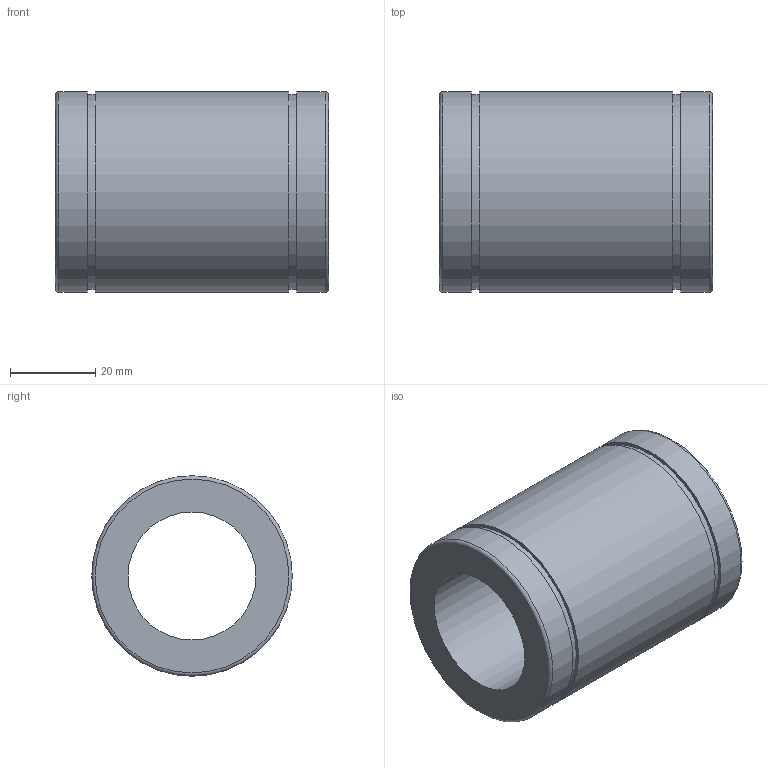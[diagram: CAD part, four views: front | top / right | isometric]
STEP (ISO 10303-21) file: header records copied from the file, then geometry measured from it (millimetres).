
FILE_DESCRIPTION(('STEP AP203'),'1');
FILE_NAME('//192.168.1.1/share/s-4 技術開発/s-4-13_CAD/03_見直し済み/001 修正済み/N/N_TOP/N-30.step','2020-04-02T23:55:00',(' '),(' '),'Spatial InterOp 3D',' ',' ');
FILE_SCHEMA(('CONFIG_CONTROL_DESIGN'));
Length unit declared in the file: millimetre
Products named in the file (1): 1
Bounding box: 64 x 47 x 47 mm (x, y, z)
Volume: 65354.1 mm3; surface area: 17854.4 mm2
Topology: 1 solids, 1 shells, 14 faces, 25 edges, 17 vertices
Faces by surface type: cylinder 6, plane 6, torus 2
Full cylindrical faces by diameter (mm): 30 x1, 45.5 x2, 47 x3
Entity records: 332 total; most frequent: DIRECTION 58, CARTESIAN_POINT 43, AXIS2_PLACEMENT_3D 29, EDGE_LOOP 28, ORIENTED_EDGE 28, FACE_OUTER_BOUND 22, ADVANCED_FACE 14, EDGE_CURVE 14
